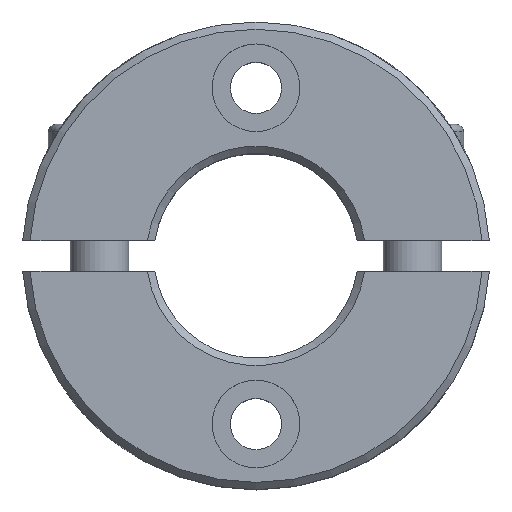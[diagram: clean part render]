
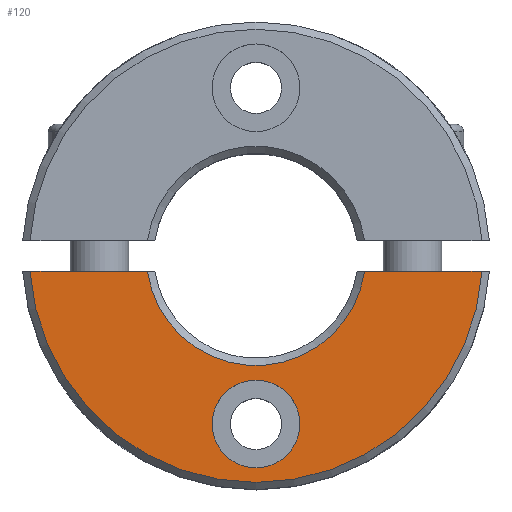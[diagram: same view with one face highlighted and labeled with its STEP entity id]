
A CAD part, top view. The second image highlights one B-rep face of the part: STEP entity #120.
In plain terms, the highlighted planar face has unit normal (0, 0, 1).
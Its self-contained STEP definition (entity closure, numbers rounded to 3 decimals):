
#120 = ADVANCED_FACE( '', ( #257, #258 ), #259, .T. );
#257 = FACE_BOUND( '', #419, .T. );
#258 = FACE_OUTER_BOUND( '', #420, .T. );
#259 = PLANE( '', #421 );
#419 = EDGE_LOOP( '', ( #765 ) );
#420 = EDGE_LOOP( '', ( #766, #767, #768, #769 ) );
#421 = AXIS2_PLACEMENT_3D( '', #770, #771, #772 );
#765 = ORIENTED_EDGE( '', *, *, #945, .F. );
#766 = ORIENTED_EDGE( '', *, *, #955, .T. );
#767 = ORIENTED_EDGE( '', *, *, #971, .F. );
#768 = ORIENTED_EDGE( '', *, *, #969, .F. );
#769 = ORIENTED_EDGE( '', *, *, #960, .F. );
#770 = CARTESIAN_POINT( '', ( 0., 7.5, 5.5 ) );
#771 = DIRECTION( '', ( 0., 0., 1. ) );
#772 = DIRECTION( '', ( 1., 0., 0. ) );
#945 = EDGE_CURVE( '', #1114, #1114, #1115, .T. );
#955 = EDGE_CURVE( '', #1134, #1132, #1135, .T. );
#960 = EDGE_CURVE( '', #1134, #1140, #1141, .T. );
#969 = EDGE_CURVE( '', #1140, #1154, #1155, .T. );
#971 = EDGE_CURVE( '', #1154, #1132, #1157, .T. );
#1114 = VERTEX_POINT( '', #1620 );
#1115 = CIRCLE( '', #1621, 3. );
#1132 = VERTEX_POINT( '', #1646 );
#1134 = VERTEX_POINT( '', #1651 );
#1135 = CIRCLE( '', #1652, 15.5 );
#1140 = VERTEX_POINT( '', #1661 );
#1141 = LINE( '', #1662, #1663 );
#1154 = VERTEX_POINT( '', #1688 );
#1155 = CIRCLE( '', #1689, 7.5 );
#1157 = LINE( '', #1694, #1695 );
#1620 = CARTESIAN_POINT( '', ( 3., -11.5, 5.5 ) );
#1621 = AXIS2_PLACEMENT_3D( '', #1863, #1864, #1865 );
#1646 = CARTESIAN_POINT( '', ( 15.464, -1.05, 5.5 ) );
#1651 = CARTESIAN_POINT( '', ( -15.464, -1.05, 5.5 ) );
#1652 = AXIS2_PLACEMENT_3D( '', #1880, #1881, #1882 );
#1661 = CARTESIAN_POINT( '', ( -7.426, -1.05, 5.5 ) );
#1662 = CARTESIAN_POINT( '', ( -18., -1.05, 5.5 ) );
#1663 = VECTOR( '', #1890, 1000. );
#1688 = CARTESIAN_POINT( '', ( 7.426, -1.05, 5.5 ) );
#1689 = AXIS2_PLACEMENT_3D( '', #1900, #1901, #1902 );
#1694 = CARTESIAN_POINT( '', ( 0., -1.05, 5.5 ) );
#1695 = VECTOR( '', #1903, 1000. );
#1863 = CARTESIAN_POINT( '', ( 0., -11.5, 5.5 ) );
#1864 = DIRECTION( '', ( 0., 0., 1. ) );
#1865 = DIRECTION( '', ( 1., 0., 0. ) );
#1880 = CARTESIAN_POINT( '', ( 0., 0., 5.5 ) );
#1881 = DIRECTION( '', ( 0., 0., 1. ) );
#1882 = DIRECTION( '', ( 1., 0., 0. ) );
#1890 = DIRECTION( '', ( 1., 0., 0. ) );
#1900 = CARTESIAN_POINT( '', ( 0., 0., 5.5 ) );
#1901 = DIRECTION( '', ( 0., 0., 1. ) );
#1902 = DIRECTION( '', ( 1., 0., 0. ) );
#1903 = DIRECTION( '', ( 1., 0., 0. ) );
